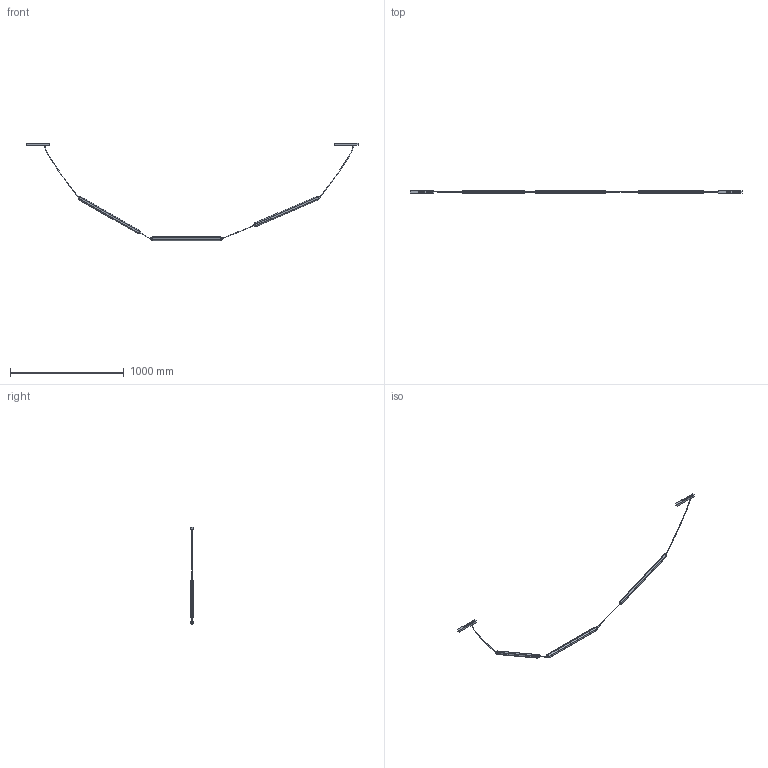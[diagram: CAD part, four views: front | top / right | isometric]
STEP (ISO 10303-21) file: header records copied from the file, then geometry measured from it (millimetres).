
FILE_DESCRIPTION(/* description */ (''),/* implementation_level */ '2;1');
FILE_NAME(/* name */ '64642141_3d',/* time_stamp */ '2026-05-11T15:32:51+02:00',/* author */ (''),/* organization */ (''),/* preprocessor_version */ 'ST-DEVELOPER v19.2',/* originating_system */ 'Rhino 8.30',/* authorisation */ '');
FILE_SCHEMA (('CONFIG_CONTROL_DESIGN'));
Length unit declared in the file: millimetre
Products named in the file (1): Document
Bounding box: 2921.21 x 30.39 x 857.32 mm (x, y, z)
Volume: 31608.8 mm3; surface area: 321606.1 mm2
Topology: 10 solids, 175 shells, 405 faces, 1521 edges, 1260 vertices
Faces by surface type: cylinder 203, plane 182, bspline 20
Entity records: 20651 total; most frequent: CARTESIAN_POINT 9498, ORIENTED_EDGE 2188, EDGE_CURVE 1509, DIRECTION 1295, VERTEX_POINT 1260, B_SPLINE_CURVE_WITH_KNOTS 1015, AXIS2_PLACEMENT_3D 840, EDGE_LOOP 459
